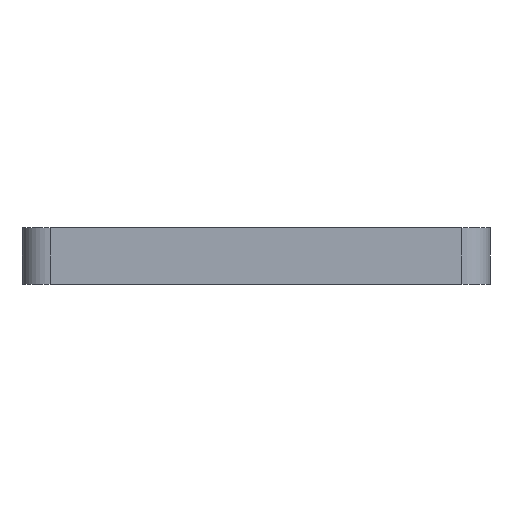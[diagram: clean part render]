
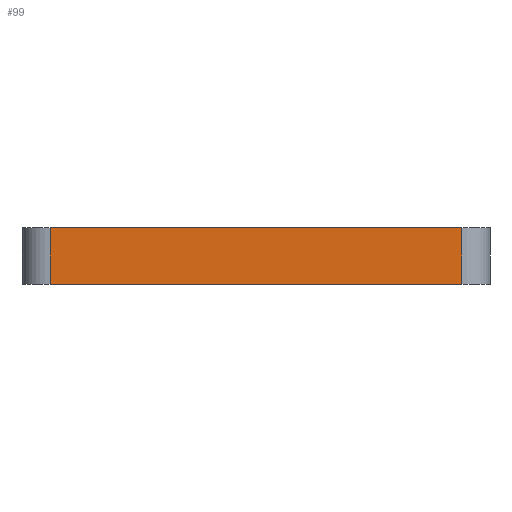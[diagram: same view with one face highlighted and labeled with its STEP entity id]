
A CAD part, left-side view. The second image highlights one B-rep face of the part: STEP entity #99.
In plain terms, the highlighted planar face has unit normal (-1, 0, 0).
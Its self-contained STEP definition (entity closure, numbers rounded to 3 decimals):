
#99=ADVANCED_FACE('23',(#207),#208,.T.);
#207=FACE_OUTER_BOUND('',#320,.T.);
#208=PLANE('',#321);
#320=EDGE_LOOP('',(#662,#663,#664,#665));
#321=AXIS2_PLACEMENT_3D('',#666,#667,#668);
#662=ORIENTED_EDGE('',*,*,#812,.F.);
#663=ORIENTED_EDGE('',*,*,#809,.T.);
#664=ORIENTED_EDGE('',*,*,#814,.F.);
#665=ORIENTED_EDGE('',*,*,#789,.T.);
#666=CARTESIAN_POINT('',(-62.5,12.5,0.0));
#667=DIRECTION('',(-1.0,0.0,0.0));
#668=DIRECTION('',(0.0,1.0,0.0));
#789=EDGE_CURVE('',#932,#930,#933,.T.);
#809=EDGE_CURVE('',#966,#964,#967,.T.);
#812=EDGE_CURVE('',#966,#930,#970,.T.);
#814=EDGE_CURVE('',#932,#964,#972,.T.);
#930=VERTEX_POINT('',#1336);
#932=VERTEX_POINT('',#1338);
#933=LINE('',#1339,#1340);
#964=VERTEX_POINT('',#1379);
#966=VERTEX_POINT('',#1381);
#967=LINE('',#1382,#1383);
#970=LINE('',#1386,#1387);
#972=LINE('',#1389,#1390);
#1336=CARTESIAN_POINT('',(-62.5,23.5,0.0));
#1338=CARTESIAN_POINT('',(-62.5,1.5,0.0));
#1339=CARTESIAN_POINT('',(-62.5,0.,0.0));
#1340=VECTOR('',#1458,1.0);
#1379=CARTESIAN_POINT('',(-62.5,1.5,-3.0));
#1381=CARTESIAN_POINT('',(-62.5,23.5,-3.0));
#1382=CARTESIAN_POINT('',(-62.5,0.,-3.0));
#1383=VECTOR('',#1491,1.0);
#1386=CARTESIAN_POINT('',(-62.5,23.5,0.0));
#1387=VECTOR('',#1495,1.0);
#1389=CARTESIAN_POINT('',(-62.5,1.5,0.0));
#1390=VECTOR('',#1496,1.0);
#1458=DIRECTION('',(0.0,1.0,0.0));
#1491=DIRECTION('',(-0.0,-1.0,-0.0));
#1495=DIRECTION('',(-0.0,-0.0,1.0));
#1496=DIRECTION('',(0.0,-0.0,-1.0));
